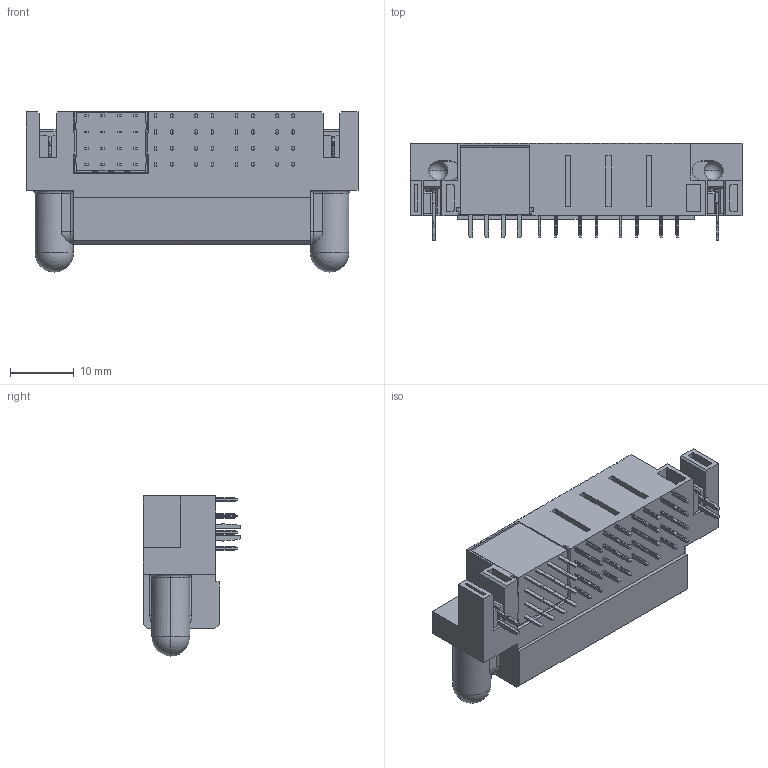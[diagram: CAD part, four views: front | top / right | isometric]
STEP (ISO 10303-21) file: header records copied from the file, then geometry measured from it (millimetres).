
FILE_DESCRIPTION (( 'STEP AP203' ), '1' );
FILE_NAME ('9391-A4P04S16CB30DLA.STEP', '2016-12-24T05:01:32', ( '' ), ( '' ), 'SwSTEP 2.0', 'SolidWorks 2011', '' );
FILE_SCHEMA (( 'CONFIG_CONTROL_DESIGN' ));
Length unit declared in the file: millimetre
Products named in the file (10): 9391-A4P04S16CB30DLA; 9391-A4P-SF1-1; 9391-A4P-SF2-2; 9391-A4P-SF3-3; 9391-A4P-SF4-4; 零件1-2; 母彎Power Pin; LOCK 排插0910; 9391-A4P-母彎Power Pin-LEFT; 9391-4P04S16CB30DLA-OP59
Assembly tree (28 placements, depth 2):
  9391-A4P04S16CB30DLA
    9391-A4P-SF1-1  x4
    9391-A4P-SF3-3  x4
    9391-A4P-SF2-2  x4
    LOCK 排插0910  x2
    9391-A4P-母彎Power Pin-LEFT  x4
    9391-A4P-SF4-4  x4
    零件1-2
    母彎Power Pin  x4
    9391-4P04S16CB30DLA-OP59
Bounding box: 52.07 x 15.33 x 25.12 mm (x, y, z)
Volume: 9488.4 mm3; surface area: 8760.6 mm2
Topology: 82 solids, 82 shells, 2801 faces, 7568 edges, 4949 vertices
Faces by surface type: plane 1818, cylinder 740, cone 128, bspline 107, sphere 8
Entity records: 42807 total; most frequent: CARTESIAN_POINT 8853, ORIENTED_EDGE 6952, DIRECTION 6356, EDGE_CURVE 3476, VECTOR 2776, LINE 2776, VERTEX_POINT 2283, AXIS2_PLACEMENT_3D 1790
